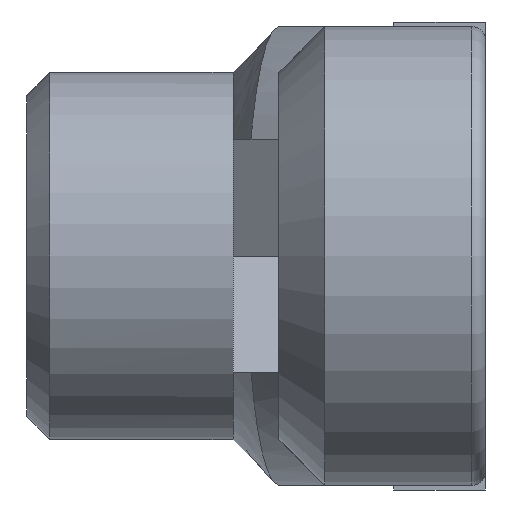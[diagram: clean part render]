
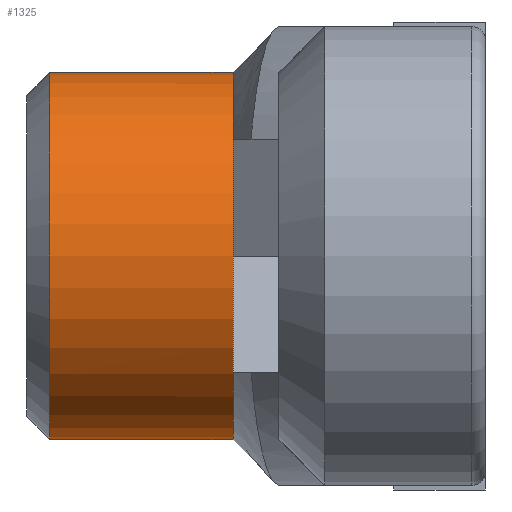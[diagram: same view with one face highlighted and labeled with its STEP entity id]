
A CAD part, left-side view. The second image highlights one B-rep face of the part: STEP entity #1325.
In plain terms, the highlighted cylindrical face has radius 4 mm (diameter 8 mm), a full revolution.
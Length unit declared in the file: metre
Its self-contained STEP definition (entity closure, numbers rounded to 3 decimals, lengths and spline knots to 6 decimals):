
#49=CIRCLE('',#1436,0.004);
#52=CIRCLE('',#1439,0.004);
#53=CIRCLE('',#1441,0.004);
#54=CIRCLE('',#1442,0.004);
#55=CIRCLE('',#1443,0.004);
#88=CYLINDRICAL_SURFACE('',#1440,0.004);
#227=ORIENTED_EDGE('',*,*,#589,.T.);
#228=ORIENTED_EDGE('',*,*,#590,.F.);
#229=ORIENTED_EDGE('',*,*,#583,.F.);
#230=ORIENTED_EDGE('',*,*,#591,.F.);
#231=ORIENTED_EDGE('',*,*,#588,.T.);
#232=ORIENTED_EDGE('',*,*,#592,.F.);
#233=ORIENTED_EDGE('',*,*,#593,.F.);
#583=EDGE_CURVE('',#765,#766,#49,.T.);
#588=EDGE_CURVE('',#763,#769,#52,.T.);
#589=EDGE_CURVE('',#770,#771,#53,.T.);
#590=EDGE_CURVE('',#766,#771,#883,.T.);
#591=EDGE_CURVE('',#763,#765,#54,.T.);
#592=EDGE_CURVE('',#770,#769,#884,.T.);
#593=EDGE_CURVE('',#772,#772,#55,.T.);
#763=VERTEX_POINT('',#2071);
#765=VERTEX_POINT('',#2075);
#766=VERTEX_POINT('',#2077);
#769=VERTEX_POINT('',#2092);
#770=VERTEX_POINT('',#2096);
#771=VERTEX_POINT('',#2097);
#772=VERTEX_POINT('',#2102);
#883=LINE('',#2098,#1004);
#884=LINE('',#2100,#1005);
#1004=VECTOR('',#1665,1.);
#1005=VECTOR('',#1668,1.);
#1104=EDGE_LOOP('',(#227,#228,#229,#230,#231,#232));
#1105=EDGE_LOOP('',(#233));
#1194=FACE_BOUND('',#1104,.T.);
#1195=FACE_BOUND('',#1105,.T.);
#1325=ADVANCED_FACE('',(#1194,#1195),#88,.T.);
#1436=AXIS2_PLACEMENT_3D('',#2076,#1653,#1654);
#1439=AXIS2_PLACEMENT_3D('',#2093,#1659,#1660);
#1440=AXIS2_PLACEMENT_3D('',#2094,#1661,#1662);
#1441=AXIS2_PLACEMENT_3D('',#2095,#1663,#1664);
#1442=AXIS2_PLACEMENT_3D('',#2099,#1666,#1667);
#1443=AXIS2_PLACEMENT_3D('',#2101,#1669,#1670);
#1653=DIRECTION('',(0.,-1.,0.));
#1654=DIRECTION('',(0.,0.,-1.));
#1659=DIRECTION('',(0.,1.,0.));
#1660=DIRECTION('',(0.,0.,1.));
#1661=DIRECTION('',(0.,1.,0.));
#1662=DIRECTION('',(1.,0.,0.));
#1663=DIRECTION('',(0.,1.,0.));
#1664=DIRECTION('',(0.638,0.,0.77));
#1665=DIRECTION('',(0.,1.,0.));
#1666=DIRECTION('',(0.,-1.,0.));
#1667=DIRECTION('',(0.,0.,1.));
#1668=DIRECTION('',(0.,-1.,0.));
#1669=DIRECTION('',(0.,1.,0.));
#1670=DIRECTION('',(-1.,0.,0.));
#2071=CARTESIAN_POINT('',(0.,0.0055,0.004));
#2075=CARTESIAN_POINT('',(0.,0.0055,-0.004));
#2076=CARTESIAN_POINT('',(0.,0.0055,0.));
#2077=CARTESIAN_POINT('',(0.002551,0.0055,-0.003081));
#2092=CARTESIAN_POINT('',(0.002551,0.0055,0.003081));
#2093=CARTESIAN_POINT('',(0.,0.0055,0.));
#2094=CARTESIAN_POINT('',(0.,0.01,0.));
#2095=CARTESIAN_POINT('',(0.,0.0077,0.));
#2096=CARTESIAN_POINT('',(0.002551,0.0077,0.003081));
#2097=CARTESIAN_POINT('',(0.002551,0.0077,-0.003081));
#2098=CARTESIAN_POINT('',(0.002551,0.0055,-0.003081));
#2099=CARTESIAN_POINT('',(0.,0.0055,0.));
#2100=CARTESIAN_POINT('',(0.002551,0.0077,0.003081));
#2101=CARTESIAN_POINT('',(0.,0.0095,0.));
#2102=CARTESIAN_POINT('',(-0.004,0.0095,0.));
